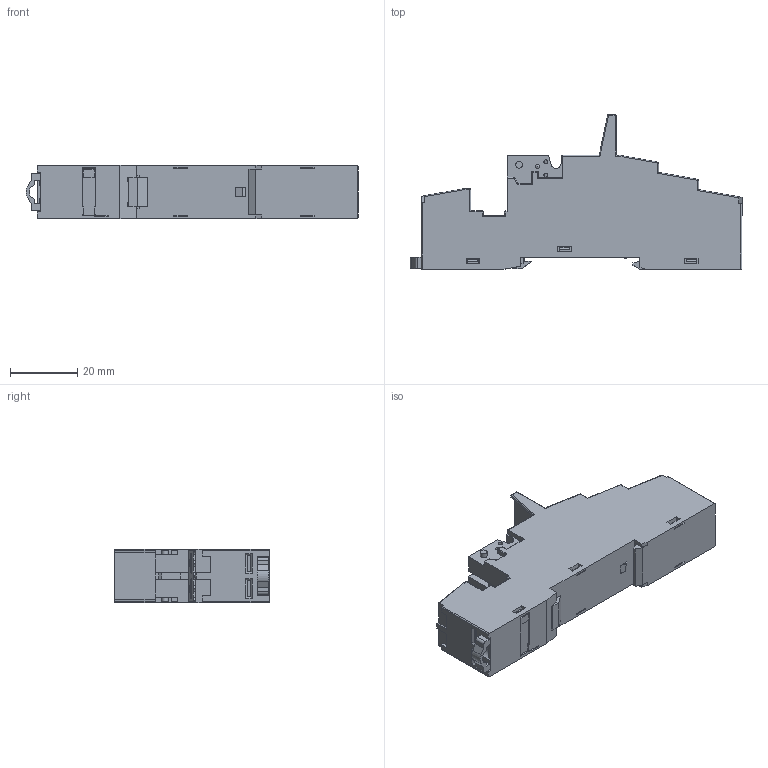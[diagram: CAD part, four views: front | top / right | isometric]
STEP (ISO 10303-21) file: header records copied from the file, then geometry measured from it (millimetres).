
FILE_DESCRIPTION(/* description */ (''),/* implementation_level */ '2;1');
FILE_NAME(/* name */ 'C:\Desktop\FIERA\97.P1.stp',/* time_stamp */ '2015-03-06T11:01:28+01:00',/* author */ ('marco'),/* organization */ (''),/* preprocessor_version */ 'ST-DEVELOPER v15.6',/* originating_system */ 'Autodesk Inventor 2015',/* authorisation */ '');
FILE_SCHEMA (('AUTOMOTIVE_DESIGN { 1 0 10303 214 3 1 1 }'));
Products named in the file (1): Assieme 97.01
Bounding box: 98.9 x 46 x 15.8 mm (x, y, z)
Volume: 34249 mm3; surface area: 19442.2 mm2
Topology: 1 solids, 1 shells, 2078 faces, 5732 edges, 3641 vertices
Faces by surface type: plane 1577, cylinder 375, torus 55, cone 45, sphere 14, bspline 12
Full cylindrical faces by diameter (mm): 1.2 x4, 2 x2, 2.1 x5
Entity records: 67553 total; most frequent: CARTESIAN_POINT 12091, ORIENTED_EDGE 11414, DIRECTION 10621, EDGE_CURVE 5707, LINE 4783, VECTOR 4783, VERTEX_POINT 3635, AXIS2_PLACEMENT_3D 2919
